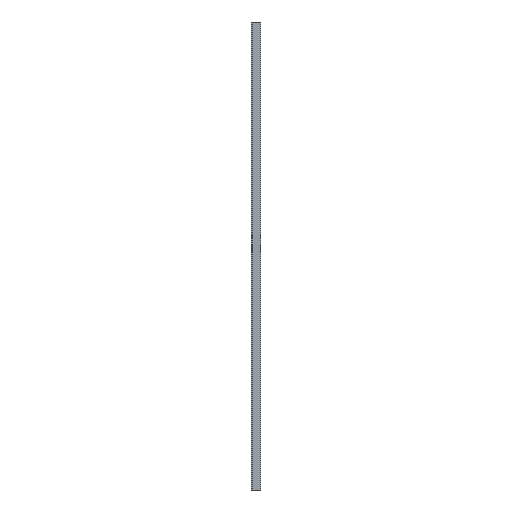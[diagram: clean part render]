
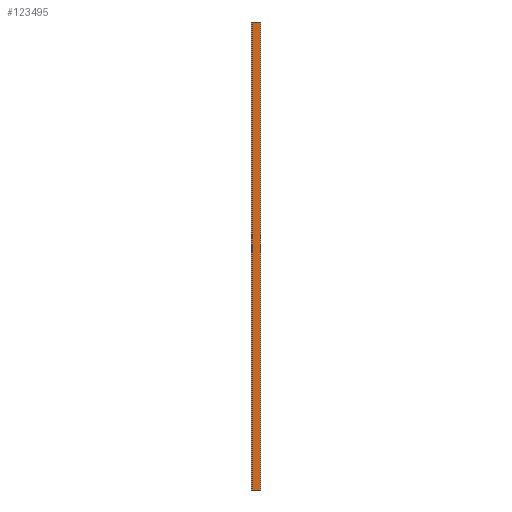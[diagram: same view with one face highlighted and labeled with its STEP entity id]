
A CAD part, front view. The second image highlights one B-rep face of the part: STEP entity #123495.
In plain terms, the highlighted planar face has unit normal (0, -1, 0).
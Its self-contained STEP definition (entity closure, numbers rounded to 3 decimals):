
#8701=FACE_OUTER_BOUND('',#15509,.T.);
#15509=EDGE_LOOP('',(#113681,#113682,#113683,#113684));
#33607=LINE('',#204231,#46905);
#33621=LINE('',#204279,#46919);
#33928=LINE('',#205169,#47226);
#33929=LINE('',#205171,#47227);
#46905=VECTOR('',#168725,0.394);
#46919=VECTOR('',#168769,0.394);
#47226=VECTOR('',#169684,0.394);
#47227=VECTOR('',#169687,0.394);
#58151=VERTEX_POINT('',#204228);
#58152=VERTEX_POINT('',#204230);
#58170=VERTEX_POINT('',#204276);
#58171=VERTEX_POINT('',#204278);
#76394=EDGE_CURVE('',#58151,#58152,#33607,.T.);
#76418=EDGE_CURVE('',#58171,#58170,#33621,.T.);
#76864=EDGE_CURVE('',#58170,#58152,#33928,.T.);
#76865=EDGE_CURVE('',#58171,#58151,#33929,.T.);
#113681=ORIENTED_EDGE('',*,*,#76418,.T.);
#113682=ORIENTED_EDGE('',*,*,#76864,.T.);
#113683=ORIENTED_EDGE('',*,*,#76394,.F.);
#113684=ORIENTED_EDGE('',*,*,#76865,.F.);
#117656=PLANE('',#134475);
#123495=ADVANCED_FACE('',(#8701),#117656,.T.);
#134475=AXIS2_PLACEMENT_3D('',#205170,#169685,#169686);
#168725=DIRECTION('',(1.,0.,0.));
#168769=DIRECTION('',(1.,0.,0.));
#169684=DIRECTION('',(0.,0.,1.));
#169685=DIRECTION('center_axis',(0.,-1.,0.));
#169686=DIRECTION('ref_axis',(1.,0.,0.));
#169687=DIRECTION('',(0.,0.,1.));
#204228=CARTESIAN_POINT('',(1.018,0.478,48.344));
#204230=CARTESIAN_POINT('',(1.811,0.478,48.344));
#204231=CARTESIAN_POINT('',(1.018,0.478,48.344));
#204276=CARTESIAN_POINT('',(1.811,0.478,0.));
#204278=CARTESIAN_POINT('',(1.018,0.478,0.));
#204279=CARTESIAN_POINT('',(1.018,0.478,0.));
#205169=CARTESIAN_POINT('',(1.811,0.478,0.));
#205170=CARTESIAN_POINT('Origin',(1.018,0.478,0.));
#205171=CARTESIAN_POINT('',(1.018,0.478,0.));
